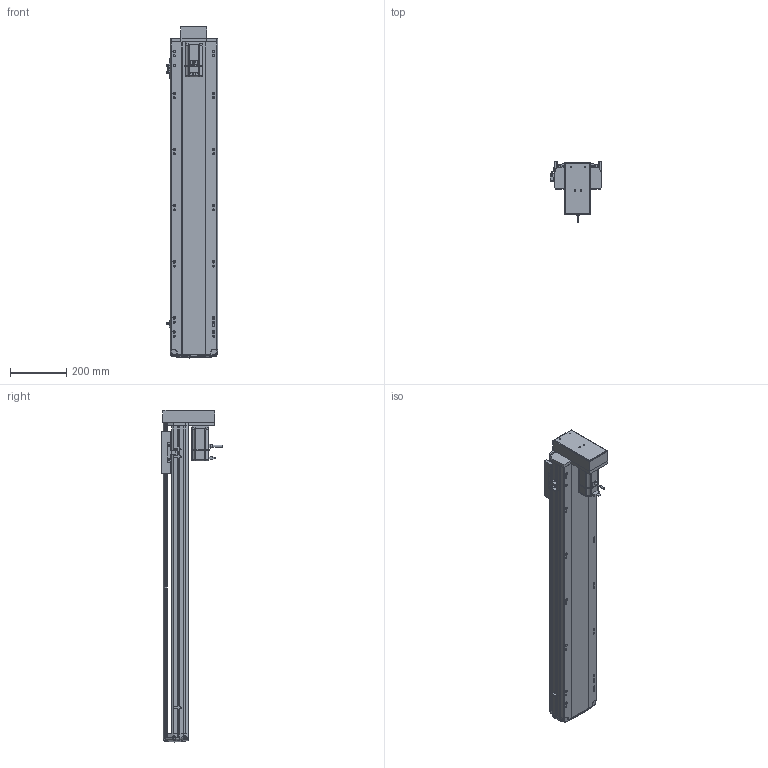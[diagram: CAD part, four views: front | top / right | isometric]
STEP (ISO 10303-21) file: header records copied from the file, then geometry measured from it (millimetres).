
FILE_DESCRIPTION (( 'STEP AP214' ), '1' );
FILE_NAME ('RTH17-XX-900-M-M40-C4.STEP', '2025-10-24T09:08:14', ( '' ), ( '' ), 'SwSTEP 2.0', 'SolidWorks 2018', '' );
FILE_SCHEMA (( 'AUTOMOTIVE_DESIGN' ));
Length unit declared in the file: millimetre
Products named in the file (10): N_RTH17-M-011底座^RTH17-XX-XX-M-M40-C4（方程式）; N_RTH17-GY-001P^RTH17-XX-XX-M-M40-C4（方程式）; N_RTH17-M-007上盖^RTH17-XX-XX-M-M40-C4（方程式）; N_M40^RTH17-XX-XX-M-M40-C4（方程式）; N_RTH17-M-018盖子^RTH17-XX-XX-M-M40-C4（方程式）; N_RTH17-M-008-P40电机安装板下折^RTH17-XX-XX-M-M40-C4（方程式）; N_OMRON EE-SX672 換覜ん^RTH17-XX-XX-M-M40-C4ㄗ源最宒ㄘ; N_RTH-BL-012 感应片(外置)^RTH17-XX-XX-M-M40-C4（方程式）; N_RTH17-E-004丝杆螺母连接座^RTH17-XX-XX-M-M40-C4（方程式）; RTH17-XX-900-M-M40-C4
Assembly tree (11 placements, depth 2):
  RTH17-XX-900-M-M40-C4
    N_RTH17-M-011底座^RTH17-XX-XX-M-M40-C4（方程式）
    N_RTH17-M-007上盖^RTH17-XX-XX-M-M40-C4（方程式）
    N_M40^RTH17-XX-XX-M-M40-C4（方程式）
    N_OMRON EE-SX672 換覜ん^RTH17-XX-XX-M-M40-C4ㄗ源最宒ㄘ  x3
    N_RTH-BL-012 感应片(外置)^RTH17-XX-XX-M-M40-C4（方程式）
    N_RTH17-M-008-P40电机安装板下折^RTH17-XX-XX-M-M40-C4（方程式）
    N_RTH17-M-018盖子^RTH17-XX-XX-M-M40-C4（方程式）
    N_RTH17-E-004丝杆螺母连接座^RTH17-XX-XX-M-M40-C4（方程式）
    N_RTH17-GY-001P^RTH17-XX-XX-M-M40-C4（方程式）
Bounding box: 183.5 x 219 x 1183.19 mm (x, y, z)
Volume: 9181325.1 mm3; surface area: 1305237.8 mm2
Topology: 10 solids, 12 shells, 1679 faces, 4698 edges, 3064 vertices
Faces by surface type: plane 834, cylinder 478, bspline 330, cone 28, torus 9
Entity records: 49396 total; most frequent: CARTESIAN_POINT 19914, ORIENTED_EDGE 6420, DIRECTION 5290, EDGE_CURVE 3214, VERTEX_POINT 2100, VECTOR 1792, LINE 1792, AXIS2_PLACEMENT_3D 1749
